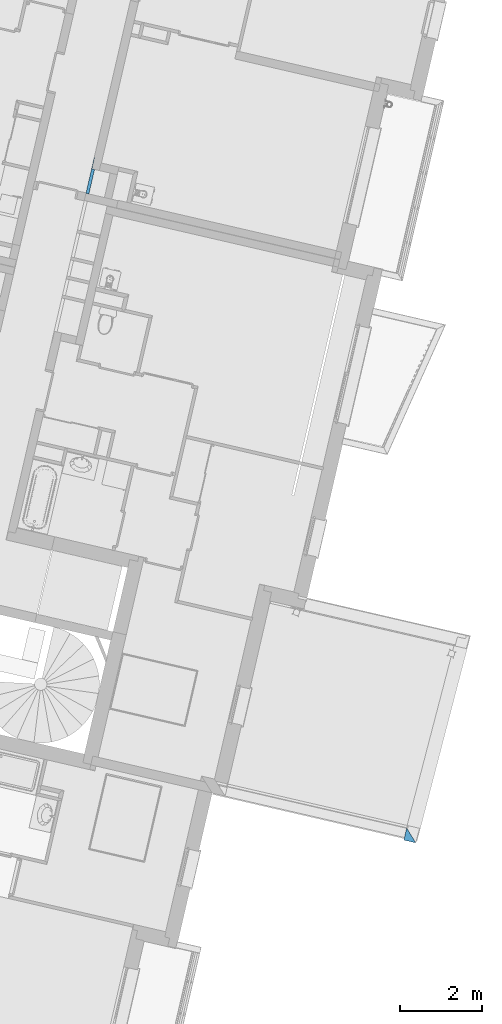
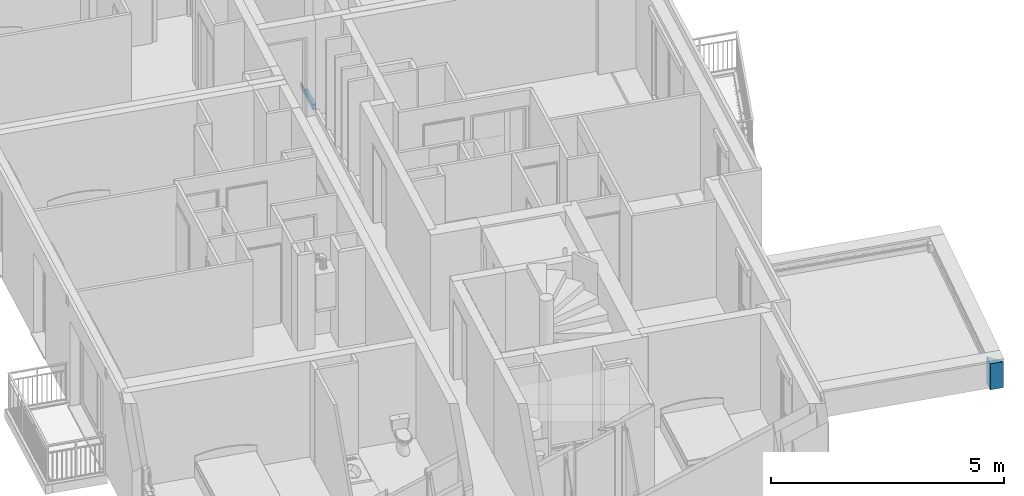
# One storey, part 58 of 90: 2 walls.
"""IFC2X3 building model written with IfcOpenShell, lengths in metres."""

from ifc_helpers import new_model, entity, si_unit, converted_unit, derived_unit, money_unit, direction, frame, origin_with_axes, place, context, subcontext, project, spatial, faceted_brep, material, material_list, type_object, element, save


model = new_model("IFC2X3")

# Units and contexts
model_context = context("Model", 3, precision=1e-05, world=origin_with_axes(), true_north=direction((0.0, 1.0)))
body_context = subcontext(model_context, "Body", "Model", "MODEL_VIEW")
ifc_project = project(units=[si_unit("LENGTHUNIT", "METRE"), si_unit("AREAUNIT", "SQUARE_METRE"), si_unit("VOLUMEUNIT", "CUBIC_METRE"), converted_unit("PLANEANGLEUNIT", "DEGREE", entity("IfcPlaneAngleMeasure", 0.0174532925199), si_unit("PLANEANGLEUNIT", "RADIAN"), dimensions=[0, 0, 0, 0, 0, 0, 0]), si_unit("SOLIDANGLEUNIT", "STERADIAN"), money_unit("EUR"), converted_unit("TIMEUNIT", "Year", entity("IfcTimeMeasure", 31556926.0), si_unit("TIMEUNIT", "SECOND"), dimensions=[0, 0, 1, 0, 0, 0, 0]), si_unit("MASSUNIT", "GRAM", prefix="KILO"), si_unit("THERMODYNAMICTEMPERATUREUNIT", "DEGREE_CELSIUS"), si_unit("LUMINOUSINTENSITYUNIT", "LUMEN"), si_unit("ENERGYUNIT", "JOULE", prefix="MEGA"), derived_unit("THERMALCONDUCTANCEUNIT", [(si_unit("POWERUNIT", "WATT"), 1), (si_unit("LENGTHUNIT", "METRE"), -1), (si_unit("THERMODYNAMICTEMPERATUREUNIT", "KELVIN"), -1)]), derived_unit("SPECIFICHEATCAPACITYUNIT", [(si_unit("ENERGYUNIT", "JOULE"), 1), (si_unit("MASSUNIT", "GRAM", prefix="KILO"), -1), (si_unit("THERMODYNAMICTEMPERATUREUNIT", "KELVIN"), -1)]), derived_unit("MASSDENSITYUNIT", [(si_unit("MASSUNIT", "GRAM", prefix="KILO"), 1), (si_unit("VOLUMEUNIT", "CUBIC_METRE"), -1)])], contexts=[model_context])

# Site, building, storey
site_placement = place(None, origin_with_axes())
site = spatial("IfcSite", under=ifc_project, at=site_placement, Name="Site", CompositionType="ELEMENT")
building_placement = place(site_placement, origin_with_axes())
building = spatial("IfcBuilding", under=site, at=building_placement, Name="Bâtiment", CompositionType="ELEMENT")
storey_placement = place(building_placement, frame((0.0, 0.0, 2.72), z_axis=(0.0, 0.0, 1.0), x_axis=(1.0, 0.0, 0.0)))
storey = spatial("IfcBuildingStorey", under=building, at=storey_placement, Name="R+1", CompositionType="ELEMENT", Elevation=2.72)

# Walls
ifc_material_1 = material(Name="Cloison - Carreaux de plâtre")
wall_type_1 = type_object("IfcWallType", Name="Cloison - Carreaux de plâtre 74", PredefinedType="USERDEFINED")
wall_1_placement = place(storey_placement, frame((-8.2935087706, 4.82801168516, 0.0), z_axis=(0.0, 0.0, 1.0), x_axis=(-0.224876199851, -0.974387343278, 0.0)))
element("IfcWall", 1, at=wall_1_placement, inside=storey, type_object=wall_type_1, material=ifc_material_1, Name="Carreaux de plâtre 8cm", ObjectType="PARTITIONING", context=body_context, shape_type="Brep", body=[
    faceted_brep([(0.610475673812, 0.0, 0.15), (0.610475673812, 0.074, 0.15), (0.0, 0.074, 0.15), (0.0, 0.0100000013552, 0.15), (-0.29, 0.0100000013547, 0.15), (-0.29, 0.0, 0.15), (0.610475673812, 0.074, 0.0), (0.610475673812, 0.0, 0.0), (0.0, 0.074, 0.0), (0.0, 0.0100000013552, 0.0), (-0.29, 0.0100000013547, 0.0), (-0.29, 0.0, 0.0)], [[[0, 1, 2, 3, 4, 5]], [[6, 1, 0, 7]], [[1, 6, 8, 2]], [[8, 9, 3, 2]], [[3, 9, 10, 4]], [[11, 5, 4, 10]], [[7, 0, 5, 11]], [[11, 10, 9, 8, 6, 7]]]),
])
ifc_material_2 = material(Name="Pierre")
ifc_material_3 = material(Name="Béton")
ifc_material_4 = material(Name="Etanchéité - Bitume")
ifc_material_5 = material(Name="Métal - Aluminium")
ifc_material_list = material_list([ifc_material_2, ifc_material_3, ifc_material_4, ifc_material_5])
wall_type_2 = type_object("IfcWallType", Name="Acrotère pour plancher 20 PAREMENT PIERRE 307 x 680", PredefinedType="USERDEFINED")
wall_2_placement = place(storey_placement, frame((-0.423894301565, -11.5379378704, -0.5), z_axis=(0.0, 0.0, 1.0), x_axis=(-0.974387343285, 0.224876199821, 0.0)))
element("IfcWall", 2, at=wall_2_placement, inside=storey, type_object=wall_type_2, material=ifc_material_list, Name="Muret béton 20cm", ObjectType="PARAPET", context=body_context, shape_type="Brep", body=[
    faceted_brep([(-3.75464059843e-09, 6.31640517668e-09, 0.0), (-3.75464059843e-09, 6.31640517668e-09, 0.68000005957), (0.295503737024, 0.0, 0.680000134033), (0.295503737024, 0.0, 0.0), (0.0777849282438, -0.0799999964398, 0.680000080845), (0.0777849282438, -0.0799999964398, 0.0), (0.295503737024, -0.079999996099, 0.680000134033), (0.295503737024, -0.079999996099, 0.0)], [[[0, 1, 2, 3]], [[4, 1, 0, 5]], [[1, 4, 6, 2]], [[2, 6, 7, 3]], [[5, 0, 3, 7]], [[4, 5, 7, 6]]]),
    faceted_brep([(0.0777849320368, -0.0800000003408, 0.0), (0.0777849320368, -0.0800000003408, 0.680000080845), (0.295503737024, -0.08, 0.680000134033), (0.295503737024, -0.08, 0.0), (0.272247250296, -0.27999999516, 0.680000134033), (0.272247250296, -0.27999999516, 0.0), (0.272247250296, -0.27999999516, 0.310502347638), (0.272247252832, -0.279999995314, 0.527853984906), (0.272247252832, -0.279999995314, 0.537144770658), (0.272247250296, -0.27999999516, 0.576542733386), (0.295503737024, -0.279999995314, 0.680000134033), (0.295503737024, -0.279999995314, 0.576542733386), (0.295503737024, -0.279999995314, 0.537144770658), (0.295503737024, -0.279999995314, 0.527853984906), (0.295503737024, -0.279999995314, 0.310502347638), (0.295503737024, -0.279999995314, 0.0)], [[[0, 1, 2, 3]], [[4, 1, 0, 5, 6, 7, 8, 9]], [[1, 4, 10, 2]], [[3, 2, 10, 11, 12, 13, 14, 15]], [[5, 0, 3, 15]], [[6, 5, 15, 14]], [[7, 6, 14, 13]], [[8, 7, 13, 12]], [[9, 8, 12, 11]], [[4, 9, 11, 10]]]),
    faceted_brep([(0.272247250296, -0.27999999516, 0.310502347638), (0.272247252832, -0.279999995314, 0.527853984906), (0.295503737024, -0.279999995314, 0.527853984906), (0.295503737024, -0.279999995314, 0.310502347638), (0.281970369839, -0.289999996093, 0.527853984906), (0.281970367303, -0.289999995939, 0.310502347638), (0.281970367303, -0.289999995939, 0.499786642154), (0.295503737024, -0.289999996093, 0.527853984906), (0.295503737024, -0.289999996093, 0.310502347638)], [[[0, 1, 2, 3]], [[4, 1, 0, 5, 6]], [[1, 4, 7, 2]], [[3, 2, 7, 8]], [[5, 0, 3, 8]], [[6, 5, 8, 7, 4]]]),
    faceted_brep([(0.272247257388, -0.28, 0.537144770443), (0.272247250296, -0.27999999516, 0.576542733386), (0.295503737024, -0.28, 0.576542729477), (0.295503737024, -0.28, 0.537144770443), (0.273263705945, -0.281045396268, 0.576542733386), (0.295503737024, -0.303918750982, 0.52971794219), (0.295503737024, -0.303918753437, 0.531205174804), (0.273263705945, -0.281045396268, 0.538228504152), (0.295503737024, -0.281045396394, 0.576542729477), (0.295503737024, -0.281045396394, 0.538228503)], [[[0, 1, 2, 3]], [[4, 1, 0, 5, 6, 7]], [[1, 4, 8, 2]], [[6, 5, 3, 2, 8, 9]], [[5, 0, 3]], [[7, 6, 9]], [[4, 7, 9, 8]]]),
])

save(model, "model.ifc")
